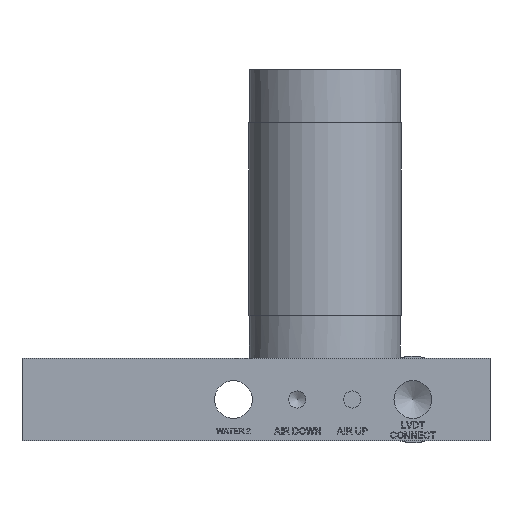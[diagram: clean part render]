
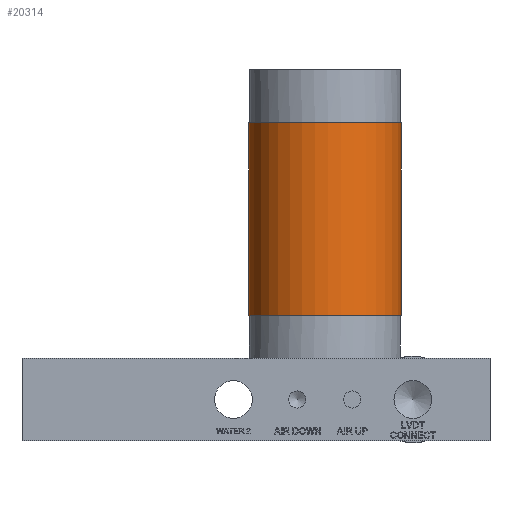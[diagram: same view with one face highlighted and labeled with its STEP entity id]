
A CAD part, front view. The second image highlights one B-rep face of the part: STEP entity #20314.
In plain terms, the highlighted cylindrical face has radius 17.59 mm (diameter 35.179 mm), a full revolution.
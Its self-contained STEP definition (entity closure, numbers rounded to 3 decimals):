
#5443=CYLINDRICAL_SURFACE($,#21251,17.59);
#5684=FACE_BOUND($,#7909,.T.);
#6656=FACE_OUTER_BOUND($,#7908,.T.);
#7908=EDGE_LOOP($,(#17607));
#7909=EDGE_LOOP($,(#17608));
#8230=CIRCLE($,#21252,17.59);
#8231=CIRCLE($,#21253,17.59);
#9977=VERTEX_POINT($,#34339);
#9978=VERTEX_POINT($,#34341);
#12564=EDGE_CURVE($,#9977,#9977,#8230,.T.);
#12565=EDGE_CURVE($,#9978,#9978,#8231,.T.);
#17607=ORIENTED_EDGE($,*,*,#12564,.T.);
#17608=ORIENTED_EDGE($,*,*,#12565,.F.);
#20314=ADVANCED_FACE($,(#6656,#5684),#5443,.T.);
#21251=AXIS2_PLACEMENT_3D($,#34338,#24893,#24894);
#21252=AXIS2_PLACEMENT_3D($,#34340,#24895,#24896);
#21253=AXIS2_PLACEMENT_3D($,#34342,#24897,#24898);
#24893=DIRECTION('center_axis',(0.,0.,
1.));
#24894=DIRECTION('ref_axis',(-0.999,-0.044,0.));
#24895=DIRECTION('center_axis',(0.,0.,
-1.));
#24896=DIRECTION('ref_axis',(-0.999,-0.044,0.));
#24897=DIRECTION('center_axis',(0.,0.,
-1.));
#24898=DIRECTION('ref_axis',(-0.999,-0.044,0.));
#34338=CARTESIAN_POINT('Origin',(0.,0.,
28.892));
#34339=CARTESIAN_POINT('',(17.573,0.77,73.342));
#34340=CARTESIAN_POINT('Origin',(0.,0.,
73.342));
#34341=CARTESIAN_POINT('',(17.573,0.77,28.892));
#34342=CARTESIAN_POINT('Origin',(0.,0.,
28.892));
